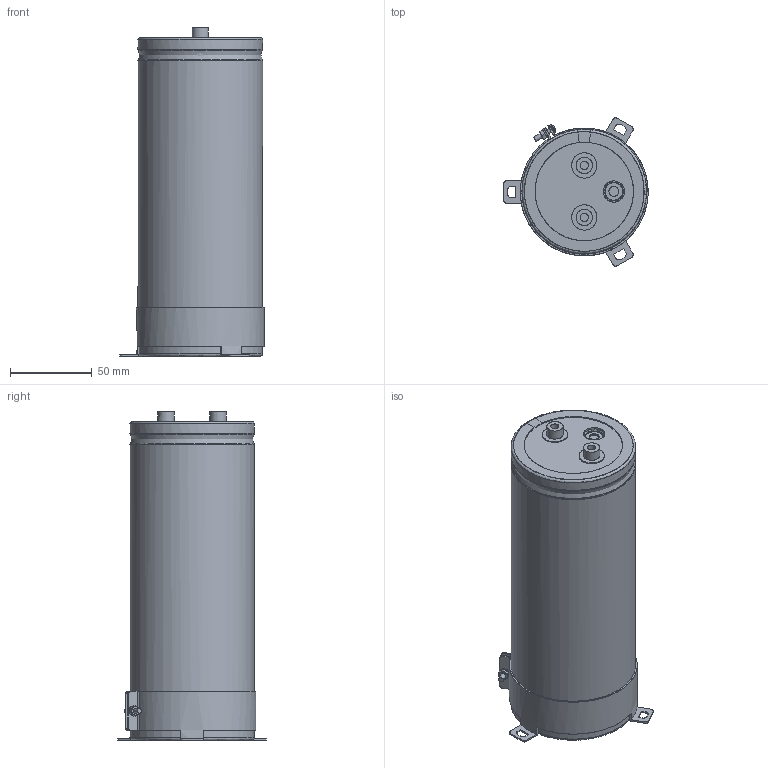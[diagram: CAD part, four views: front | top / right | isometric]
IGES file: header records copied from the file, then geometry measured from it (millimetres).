
Start section: JAMA-IS VERSION  1.0
Bounding box: 88.3 x 90.75 x 201 mm (x, y, z)
Surface area: 170014.8 mm2 (no closed solid volume)
Topology: 0 solids, 0 shells, 259 faces, 4448 edges, 4417 vertices
Faces by surface type: bspline 259
